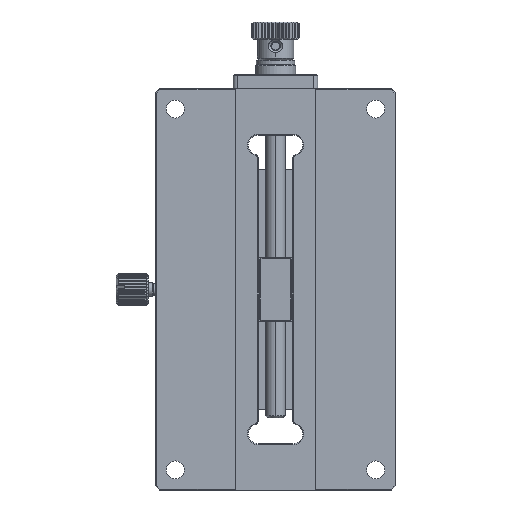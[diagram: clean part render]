
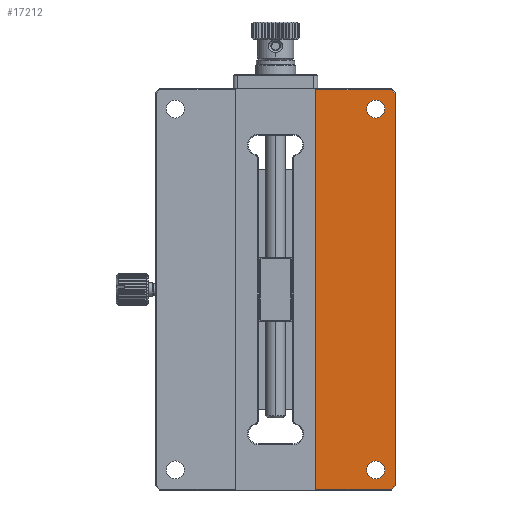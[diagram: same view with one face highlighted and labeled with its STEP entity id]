
A CAD part, front view. The second image highlights one B-rep face of the part: STEP entity #17212.
In plain terms, the highlighted planar face has unit normal (0, -1, 0).
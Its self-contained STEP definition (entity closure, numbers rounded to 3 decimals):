
#527=CARTESIAN_POINT('',(-25.,-5.9,-45.));
#528=DIRECTION('',(0.,1.,0.));
#529=DIRECTION('',(1.,0.,0.));
#530=AXIS2_PLACEMENT_3D('',#527,#528,#529);
#532=CARTESIAN_POINT('',(-25.,-5.9,-45.));
#533=DIRECTION('',(0.,1.,0.));
#534=DIRECTION('',(-1.,0.,0.));
#535=AXIS2_PLACEMENT_3D('',#532,#533,#534);
#547=CARTESIAN_POINT('',(-25.,-5.9,45.));
#548=DIRECTION('',(0.,1.,0.));
#549=DIRECTION('',(1.,0.,0.));
#550=AXIS2_PLACEMENT_3D('',#547,#548,#549);
#552=CARTESIAN_POINT('',(-25.,-5.9,45.));
#553=DIRECTION('',(0.,1.,0.));
#554=DIRECTION('',(-1.,0.,0.));
#555=AXIS2_PLACEMENT_3D('',#552,#553,#554);
#567=DIRECTION('',(0.,0.,1.));
#568=VECTOR('',#567,99.6);
#569=CARTESIAN_POINT('',(-10.,-5.9,-49.8));
#570=LINE('',#569,#568);
#571=DIRECTION('',(1.,0.,0.));
#572=VECTOR('',#571,18.917);
#573=CARTESIAN_POINT('',(-28.917,-5.9,-49.8));
#574=LINE('',#573,#572);
#575=DIRECTION('',(0.707,0.,-0.707));
#576=VECTOR('',#575,1.249);
#577=CARTESIAN_POINT('',(-29.8,-5.9,-48.917));
#578=LINE('',#577,#576);
#579=DIRECTION('',(0.,0.,-1.));
#580=VECTOR('',#579,97.834);
#581=CARTESIAN_POINT('',(-29.8,-5.9,48.917));
#582=LINE('',#581,#580);
#583=DIRECTION('',(-0.707,0.,-0.707));
#584=VECTOR('',#583,1.249);
#585=CARTESIAN_POINT('',(-28.917,-5.9,49.8));
#586=LINE('',#585,#584);
#587=DIRECTION('',(-1.,0.,0.));
#588=VECTOR('',#587,18.917);
#589=CARTESIAN_POINT('',(-10.,-5.9,49.8));
#590=LINE('',#589,#588);
#12489=CARTESIAN_POINT('',(-29.8,-5.9,-48.917));
#12490=CARTESIAN_POINT('',(-28.917,-5.9,-49.8));
#12491=VERTEX_POINT('',#12489);
#12492=VERTEX_POINT('',#12490);
#12517=CARTESIAN_POINT('',(-28.917,-5.9,49.8));
#12518=CARTESIAN_POINT('',(-29.8,-5.9,48.917));
#12519=VERTEX_POINT('',#12517);
#12520=VERTEX_POINT('',#12518);
#12665=CARTESIAN_POINT('',(-22.75,-5.9,-45.));
#12666=CARTESIAN_POINT('',(-27.25,-5.9,-45.));
#12667=VERTEX_POINT('',#12665);
#12668=VERTEX_POINT('',#12666);
#12673=CARTESIAN_POINT('',(-22.75,-5.9,45.));
#12674=CARTESIAN_POINT('',(-27.25,-5.9,45.));
#12675=VERTEX_POINT('',#12673);
#12676=VERTEX_POINT('',#12674);
#12745=CARTESIAN_POINT('',(-10.,-5.9,-49.8));
#12746=CARTESIAN_POINT('',(-10.,-5.9,49.8));
#12747=VERTEX_POINT('',#12745);
#12748=VERTEX_POINT('',#12746);
#17182=CARTESIAN_POINT('',(0.,-5.9,0.));
#17183=DIRECTION('',(0.,1.,0.));
#17184=DIRECTION('',(1.,0.,0.));
#17185=AXIS2_PLACEMENT_3D('',#17182,#17183,#17184);
#17186=PLANE('',#17185);
#17187=ORIENTED_EDGE('',*,*,#17172,.F.);
#17189=ORIENTED_EDGE('',*,*,#17188,.F.);
#17191=ORIENTED_EDGE('',*,*,#17190,.F.);
#17193=ORIENTED_EDGE('',*,*,#17192,.F.);
#17195=ORIENTED_EDGE('',*,*,#17194,.F.);
#17197=ORIENTED_EDGE('',*,*,#17196,.F.);
#17198=EDGE_LOOP('',(#17187,#17189,#17191,#17193,#17195,#17197));
#17199=FACE_OUTER_BOUND('',#17198,.F.);
#17201=ORIENTED_EDGE('',*,*,#17200,.F.);
#17203=ORIENTED_EDGE('',*,*,#17202,.F.);
#17204=EDGE_LOOP('',(#17201,#17203));
#17205=FACE_BOUND('',#17204,.F.);
#17207=ORIENTED_EDGE('',*,*,#17206,.F.);
#17209=ORIENTED_EDGE('',*,*,#17208,.F.);
#17210=EDGE_LOOP('',(#17207,#17209));
#17211=FACE_BOUND('',#17210,.F.);
#17212=ADVANCED_FACE('',(#17199,#17205,#17211),#17186,.F.);
#531=CIRCLE('',#530,2.25);
#536=CIRCLE('',#535,2.25);
#551=CIRCLE('',#550,2.25);
#556=CIRCLE('',#555,2.25);
#17172=EDGE_CURVE('',#12747,#12748,#570,.T.);
#17188=EDGE_CURVE('',#12492,#12747,#574,.T.);
#17190=EDGE_CURVE('',#12491,#12492,#578,.T.);
#17192=EDGE_CURVE('',#12520,#12491,#582,.T.);
#17194=EDGE_CURVE('',#12519,#12520,#586,.T.);
#17196=EDGE_CURVE('',#12748,#12519,#590,.T.);
#17200=EDGE_CURVE('',#12667,#12668,#531,.T.);
#17202=EDGE_CURVE('',#12668,#12667,#536,.T.);
#17206=EDGE_CURVE('',#12675,#12676,#551,.T.);
#17208=EDGE_CURVE('',#12676,#12675,#556,.T.);
